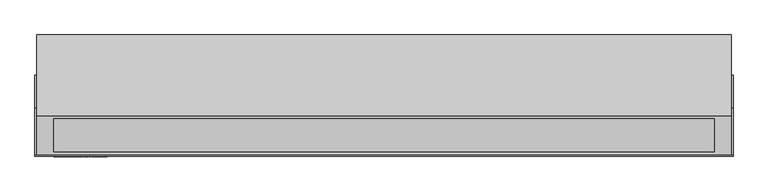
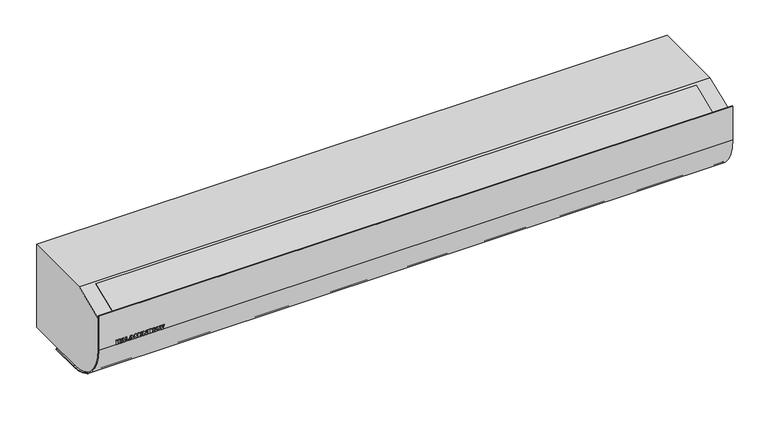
"""IFC4 building model written with IfcOpenShell, lengths in millimetres: proxy geometry, ADSK_Завеса_Электрическая : KVC-B15E12-31."""

from ifc_helpers import new_model, si_unit, point, frame, frame_2d, origin, place, context, project, spatial, polyline, circle_curve, trimmed, segment, composite_curve, outline, extrude, source, transform, mapped, element, save
from ifc_brep_helpers import plane_surface, cylinder_surface, advanced_brep


def mechanical_equipment_cf9eca2f(model_context):
    return source(origin(), model_context, "Body", "SolidModel", [
        extrude(outline(polyline([(114.5, -709.0196078), (104.5, -709.0196078), (104.5, -705.8823529), (106.2647059, -705.8823529), (108.2745098, -704.1115196), (104.5, -702.2794118), (104.5, -698.4313725), (110.7775735, -701.9056373), (114.5, -698.627451), (114.5, -702.8982843), (110.7224265, -705.8823529), (114.5, -705.8823529), (114.5, -709.0196078)])), frame((0.0, -262.0, 0.0), z_axis=(0.0, 1.0, 0.0), x_axis=(0.0, 0.0, 1.0)), (0.0, 0.0, 1.0), 1.0),
        extrude(outline(polyline([(106.0686275, -691.4338235), (104.5, -690.9803922), (104.5, -687.6470588), (114.5, -691.0202206), (114.5, -695.0582108), (104.5, -698.4313725), (104.5, -695.0980392), (106.0686275, -694.6660539), (106.0686275, -691.4338235)]), holes=[polyline([(108.4215686, -692.0281863), (108.4215686, -694.0165441), (111.9540441, -693.0392157), (108.4215686, -692.0281863)])]), frame((0.0, -262.0, 0.0), z_axis=(0.0, 1.0, 0.0), x_axis=(0.0, 0.0, 1.0)), (0.0, 0.0, 1.0), 1.0),
        extrude(outline(polyline([(114.5, -686.6666667), (104.5, -686.6666667), (104.5, -678.8235294), (106.8529412, -678.8235294), (106.8529412, -683.5294118), (114.5, -683.5294118), (114.5, -686.6666667)])), frame((0.0, -262.0, 0.0), z_axis=(0.0, 1.0, 0.0), x_axis=(0.0, 0.0, 1.0)), (0.0, 0.0, 1.0), 1.0),
        extrude(outline(polyline([(106.0686275, -671.4338235), (104.5, -670.9803922), (104.5, -667.6470588), (114.5, -671.0202206), (114.5, -675.0582108), (104.5, -678.4313725), (104.5, -675.0980392), (106.0686275, -674.6660539), (106.0686275, -671.4338235)]), holes=[polyline([(108.4215686, -672.0281863), (108.4215686, -674.0165441), (111.9540441, -673.0392157), (108.4215686, -672.0281863)])]), frame((0.0, -262.0, 0.0), z_axis=(0.0, 1.0, 0.0), x_axis=(0.0, 0.0, 1.0)), (0.0, 0.0, 1.0), 1.0),
        extrude(outline(polyline([(107.8394608, -667.254902), (105.3026961, -666.1488971), (104.3039216, -662.6378676), (104.7297794, -660.2420343), (105.9813113, -658.7637868), (107.78125, -658.2352941), (109.2870711, -658.6305147), (110.4129902, -659.8958333), (111.3106618, -662.7757353), (112.9313725, -662.9074755), (112.6050858, -662.1338848), (111.5588235, -661.7647059), (111.7395833, -658.627451), (113.9883578, -659.8054534), (114.6960784, -662.6807598), (114.3039216, -665.1011029), (113.2285539, -666.4231005), (111.776348, -666.8627451), (109.8492647, -665.9957108), (108.6237745, -663.1219363), (107.3186275, -661.372549), (106.5818015, -661.6865809), (106.2647059, -662.5796569), (106.8958333, -663.7775735), (108.0294118, -664.1176471), (107.8394608, -667.254902)])), frame((0.0, -262.0, 0.0), z_axis=(0.0, 1.0, 0.0), x_axis=(0.0, 0.0, 1.0)), (0.0, 0.0, 1.0), 1.0),
        extrude(outline(polyline([(114.5, -656.6666667), (104.5, -656.6666667), (104.5, -653.5294118), (108.6176471, -653.5294118), (108.6176471, -650.1960784), (104.5, -650.1960784), (104.5, -647.0588235), (114.5, -647.0588235), (114.5, -650.1960784), (110.9705882, -650.1960784), (110.9705882, -653.5294118), (114.5, -653.5294118), (114.5, -656.6666667)])), frame((0.0, -262.0, 0.0), z_axis=(0.0, 1.0, 0.0), x_axis=(0.0, 0.0, 1.0)), (0.0, 0.0, 1.0), 1.0),
        extrude(outline(polyline([(114.5, -645.0980392), (104.5, -645.0980392), (104.5, -642.1568627), (109.9901961, -642.1568627), (104.5, -638.4313725), (104.5, -635.4901961), (114.5, -635.4901961), (114.5, -638.4313725), (108.9730392, -638.4313725), (114.5, -642.1783088), (114.5, -645.0980392)])), frame((0.0, -262.0, 0.0), z_axis=(0.0, 1.0, 0.0), x_axis=(0.0, 0.0, 1.0)), (0.0, 0.0, 1.0), 1.0),
        extrude(outline(polyline([(-630.1960784, -262.0), (-633.3333333, -262.0), (-633.3333333, -261.0), (-630.1960784, -261.0), (-630.1960784, -262.0)])), frame((0.0, 0.0, 104.5), z_axis=(0.0, 0.0, 1.0), x_axis=(1.0, 0.0, 0.0)), (0.0, 0.0, 1.0), 10.0),
        extrude(outline(polyline([(114.5, -628.0392157), (104.5, -628.0392157), (104.5, -624.9019608), (106.2647059, -624.9019608), (108.2745098, -623.1311275), (104.5, -621.2990196), (104.5, -617.4509804), (110.7775735, -620.9252451), (114.5, -617.6470588), (114.5, -621.9178922), (110.7224265, -624.9019608), (114.5, -624.9019608), (114.5, -628.0392157)])), frame((0.0, -262.0, 0.0), z_axis=(0.0, 1.0, 0.0), x_axis=(0.0, 0.0, 1.0)), (0.0, 0.0, 1.0), 1.0),
        extrude(outline(polyline([(109.4938725, -616.8627451), (106.5603554, -616.171875), (104.846201, -614.3688725), (104.3039216, -611.5594363), (104.9304534, -608.7729779), (106.6859681, -607.0618873), (109.5765931, -606.4705882), (113.3495711, -607.8247549), (114.6960784, -611.685049), (113.3250613, -615.4947917), (109.4938725, -616.8627451)]), holes=[polyline([(109.4938725, -613.7254902), (111.6813725, -613.1678922), (112.3431373, -611.6911765), (111.6920956, -610.1685049), (109.6286765, -609.6078431), (107.3048407, -610.145527), (106.6568627, -611.6636029), (107.3186275, -613.1709559), (109.4938725, -613.7254902)])]), frame((0.0, -262.0, 0.0), z_axis=(0.0, 1.0, 0.0), x_axis=(0.0, 0.0, 1.0)), (0.0, 0.0, 1.0), 1.0),
        extrude(outline(polyline([(114.5, -605.6862745), (104.5, -601.9699755), (104.5, -598.6397059), (114.5, -594.9019608), (114.5, -598.2352941), (107.3033088, -600.2941176), (114.5, -602.3560049), (114.5, -605.6862745)])), frame((0.0, -262.0, 0.0), z_axis=(0.0, 1.0, 0.0), x_axis=(0.0, 0.0, 1.0)), (0.0, 0.0, 1.0), 1.0),
        extrude(outline(polyline([(-17.8333333, 10.0), (-17.8333333, 0.0), (-31.6666667, 10.0), (-31.6666667, 0.0), (-45.5, 10.0), (-45.5, 0.0), (-59.3333333, 10.0), (-59.3333333, 0.0), (-73.1666667, 10.0), (-73.1666667, 0.0), (-86.9166498, 10.5360909), (-4.0, 10.5360909), (-4.0, 0.0), (-17.8333333, 10.0)])), frame((-710.0, 0.0, 0.0), z_axis=(1.0, 0.0, 0.0), x_axis=(0.0, 1.0, 0.0)), (0.0, 0.0, 1.0), 1420.0),
        advanced_brep(
        [(746.0, -174.0, 209.0), (746.0, -259.0, 174.0), (746.0, -259.0, 104.5), (746.0, -156.5, 2.0), (746.0, 0.0, 2.0), (746.0, 0.0, 209.0), (-746.0, -174.0, 209.0), (-746.0, 0.0, 209.0), (-746.0, 0.0, 2.0), (-746.0, -156.5, 2.0), (-746.0, -259.0, 104.5), (-746.0, -259.0, 174.0), (710.0, -4.0, 2.0), (-710.0, -4.0, 2.0), (-710.0, -87.0, 2.0), (710.0, -87.0, 2.0), (710.0, -4.0, 10.0), (710.0, -87.0, 10.0), (-710.0, -87.0, 10.0), (-710.0, -4.0, 10.0)],
        [
            (0, 1),
            (1, 2),
            (2, 3, circle_curve(frame((746.0, -156.5, 104.5), z_axis=(1.0, 0.0, 0.0), x_axis=(0.0, 1.0, 0.0)), 102.5)),
            (3, 4),
            (4, 5),
            (5, 0),
            (6, 7),
            (7, 8),
            (8, 9),
            (9, 10, circle_curve(frame((-746.0, -156.5, 104.5), z_axis=(-1.0, 0.0, 0.0), x_axis=(0.0, 1.0, 0.0)), 102.5)),
            (10, 11),
            (11, 6),
            (1, 11),
            (10, 2),
            (4, 8),
            (7, 5),
            (6, 0),
            (9, 3),
            (12, 13),
            (13, 14),
            (14, 15),
            (15, 12),
            (16, 17),
            (17, 18),
            (18, 19),
            (19, 16),
            (19, 13),
            (12, 16),
            (18, 14),
            (17, 15),
        ],
        [
            plane_surface(frame((746.0, -174.0, 209.0), z_axis=(1.0, 0.0, 0.0), x_axis=(0.0, -0.924678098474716, -0.38074980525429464))),
            plane_surface(frame((-746.0, -174.0, 209.0), z_axis=(-1.0, 0.0, 0.0), x_axis=(0.0, 0.924678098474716, 0.38074980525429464))),
            plane_surface(frame((746.0, -259.0, 174.0), z_axis=(0.0, -1.0, 0.0), x_axis=(-1.0, 0.0, 0.0))),
            plane_surface(frame((746.0, 0.0, 2.0), z_axis=(0.0, 1.0, 0.0), x_axis=(-1.0, 0.0, 0.0))),
            plane_surface(frame((746.0, 0.0, 209.0), z_axis=(0.0, 0.0, 1.0), x_axis=(-1.0, 0.0, 0.0))),
            cylinder_surface(frame((-746.0, -156.5, 104.5), z_axis=(1.0, 0.0, 0.0), x_axis=(0.0, 1.0, 0.0)), 102.5),
            plane_surface(frame((746.0, -156.5, 2.0), z_axis=(0.0, 0.0, -1.0), x_axis=(-1.0, 0.0, 0.0))),
            plane_surface(frame((746.0, -174.0, 209.0), z_axis=(0.0, -0.38074980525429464, 0.924678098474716), x_axis=(-1.0, 0.0, 0.0))),
            plane_surface(frame((-710.0, -4.0, 10.0), z_axis=(0.0, 0.0, -1.0), x_axis=(-1.0, 0.0, 0.0))),
            plane_surface(frame((710.0, -4.0, 10.0), z_axis=(0.0, -1.0, 0.0), x_axis=(0.0, 0.0, -1.0))),
            plane_surface(frame((-710.0, -4.0, 10.0), z_axis=(1.0, 0.0, 0.0), x_axis=(0.0, 0.0, -1.0))),
            plane_surface(frame((-710.0, -87.0, 10.0), z_axis=(0.0, 1.0, 0.0), x_axis=(0.0, 0.0, -1.0))),
            plane_surface(frame((710.0, -87.0, 10.0), z_axis=(-1.0, 0.0, 0.0), x_axis=(0.0, 0.0, -1.0))),
        ],
        [
            (0, [[1, 2, 3, 4, 5, 6]]),
            (1, [[7, 8, 9, 10, 11, 12]]),
            (2, [[-2, 13, -11, 14]]),
            (3, [[-5, 15, -8, 16]]),
            (4, [[-6, -16, -7, 17]]),
            (5, [[-3, -14, -10, 18]]),
            (6, [[-4, -18, -9, -15], [19, 20, 21, 22]]),
            (7, [[-1, -17, -12, -13]]),
            (8, [[23, 24, 25, 26]]),
            (9, [[-26, 27, -19, 28]]),
            (10, [[-25, 29, -20, -27]]),
            (11, [[-24, 30, -21, -29]]),
            (12, [[-23, -28, -22, -30]]),
        ],
    ),
        extrude(outline(polyline([(0.0, -76.1279367), (0.0, 0.0), (1420.0, 0.0), (1420.0, -76.1279367), (0.0, -76.1279367)])), frame((710.0, -250.390912, 176.9269802), z_axis=(0.0, -0.38074980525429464, 0.924678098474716), x_axis=(-1.0, 0.0, 0.0)), (0.0, 0.0, 1.0), 1.1427881),
        extrude(outline(composite_curve([segment(polyline([(-261.0, 189.0), (-259.0, 189.0), (-259.0, 104.5)]), True, "CONTINUOUS"), segment(trimmed(circle_curve(frame_2d((-156.5, 104.5)), 102.5), [point((-259.0, 104.5))], [point((-156.5, 2.0))], True, "CARTESIAN"), True, "CONTINUOUS"), segment(polyline([(-156.5, 2.0), (-87.0, 2.0), (-87.0, 0.0), (-156.5, 0.0)]), True, "CONTINUOUS"), segment(trimmed(circle_curve(frame_2d((-156.5, 104.5)), 104.5), [point((-156.5, 0.0))], [point((-261.0, 104.5))], False, "CARTESIAN"), True, "CONTINUOUS"), segment(polyline([(-261.0, 104.5), (-261.0, 189.0)]), True, "CONTINUOUS")], self_intersect=False)), frame((-750.0, 0.0, 0.0), z_axis=(1.0, 0.0, 0.0), x_axis=(0.0, 1.0, 0.0)), (0.0, 0.0, 1.0), 1500.0),
    ])


if __name__ == "__main__":
    model = new_model("IFC4")
    model_context = context("Model", 3, world=origin())
    ifc_project = project(units=[si_unit("LENGTHUNIT", "METRE", prefix="MILLI")], contexts=[model_context])
    site = spatial("IfcSite", under=ifc_project)
    building = spatial("IfcBuilding", under=site)
    placement = place(None, origin())
    mechanical_equipment_shape = mechanical_equipment_cf9eca2f(model_context)
    element("IfcBuildingElementProxy", 1, Name="ADSK_Завеса_Электрическая : KVC-B15E12-31", ObjectType="ADSK_Завеса_Электрическая : KVC-B15E12-31", at=placement, inside=building, context=model_context, shape_type="MappedRepresentation", body=[
        mapped(mechanical_equipment_shape, transform((0.0, 0.0, 0.0), x_axis=(1.0, 0.0, 0.0), y_axis=(0.0, 1.0, 0.0), z_axis=(0.0, 0.0, 1.0))),
    ])
    save(model, "model.ifc")
